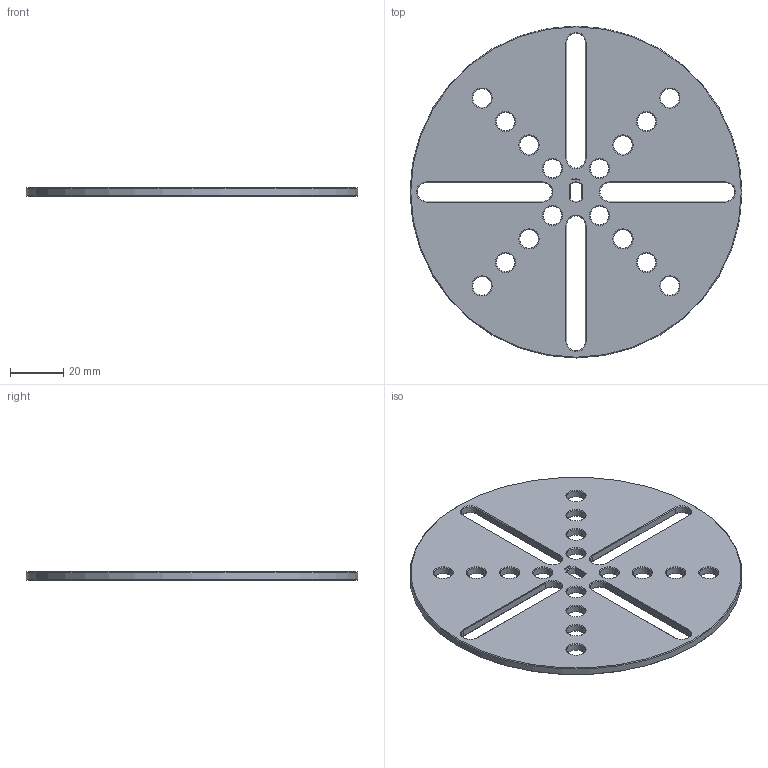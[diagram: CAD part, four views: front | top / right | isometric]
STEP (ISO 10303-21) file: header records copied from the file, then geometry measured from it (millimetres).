
FILE_DESCRIPTION(/* description */ (''),/* implementation_level */ '2;1');
FILE_NAME(/* name */ '/Users/paulokiefe/Desktop/STEMFIE/Fasteners/Washers/Fixed/Washer WSR FXD BU0.25x10.00 - SPN-WSR-0037 v1.step',/* time_stamp */ '2020-09-27T23:24:07+02:00',/* author */ (''),/* organization */ (''),/* preprocessor_version */ 'ST-DEVELOPER v18.1',/* originating_system */ 'Autodesk Translation Framework v9.3.0.1241',/* authorisation */ '');
FILE_SCHEMA (('AUTOMOTIVE_DESIGN { 1 0 10303 214 3 1 1 }'));
Length unit declared in the file: millimetre
Products named in the file (1): Washer WSR FXD BU0.25x10.00 - SPN-WSR-0037
Bounding box: 125 x 125 x 3.12 mm (x, y, z)
Volume: 31917.2 mm3; surface area: 23838.7 mm2
Topology: 1 solids, 1 shells, 357 faces, 955 edges, 612 vertices
Faces by surface type: plane 276, cone 54, cylinder 27
Full cylindrical faces by diameter (mm): 7 x16, 125 x1
Entity records: 11030 total; most frequent: CARTESIAN_POINT 1949, ORIENTED_EDGE 1910, DIRECTION 1771, EDGE_CURVE 955, LINE 839, VECTOR 839, VERTEX_POINT 612, AXIS2_PLACEMENT_3D 466
